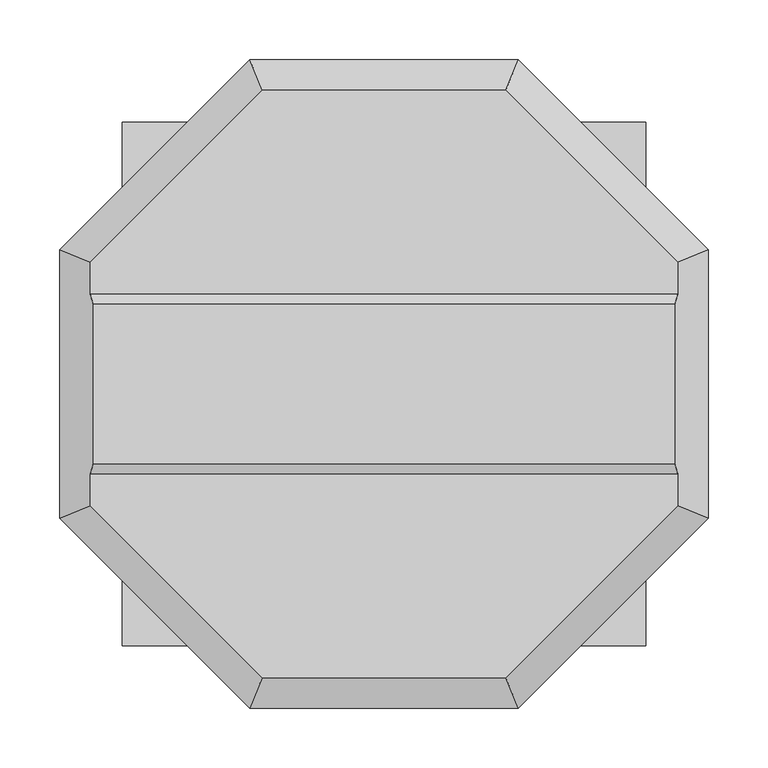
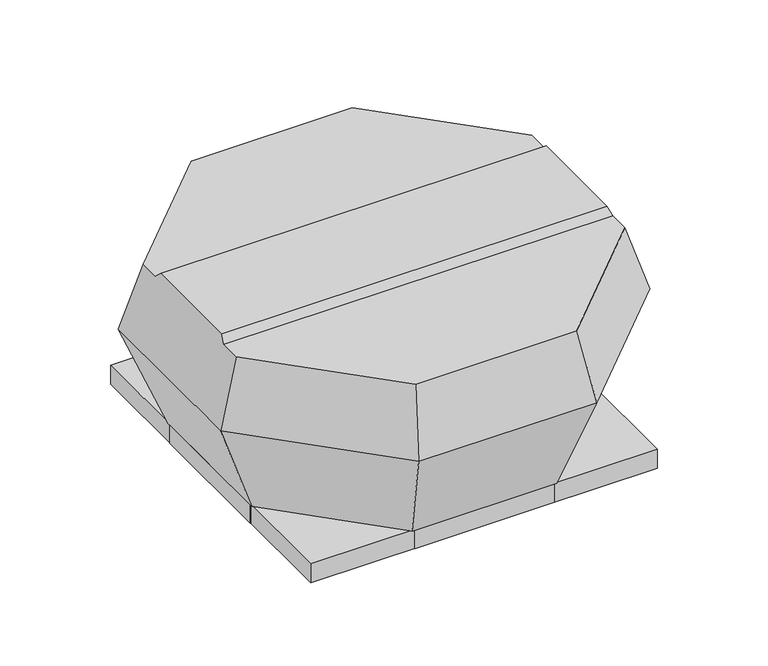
"""IFC4 building model written with IfcOpenShell, lengths in millimetres: unitary equipment geometry, VE-Wentylator-ParaForma-Harmann-VIVO-Wywiewny : 4-315/1900S."""

from ifc_helpers import new_model, si_unit, origin, place, context, project, spatial, faceted_brep, source, transform, mapped, element, save


def unitary_equipment_a15a98cf(model_context):
    return source(origin(), model_context, "Body", "Brep", [
        faceted_brep([(242.8789485, -66.5, 224.6), (242.8789485, 66.5, 224.6), (-242.8789485, 66.5, 224.6), (-242.8789485, -66.5, 224.6), (245.4048086, 74.9, 216.2), (-245.4048086, 74.9, 216.2), (245.4048086, -74.9, 216.2), (-245.4048086, -74.9, 216.2), (101.65, -245.4048086, 216.2), (245.4048086, -101.65, 216.2), (-245.4048086, -101.65, 216.2), (-101.65, -245.4048086, 216.2), (245.4048086, 101.65, 216.2), (101.65, 245.4048086, 216.2), (-101.65, 245.4048086, 216.2), (-245.4048086, 101.65, 216.2), (112.1, -270.6333403, 132.3), (270.6333403, -112.1, 132.3), (270.6333403, 112.1, 132.3), (112.1, 270.6333403, 132.3), (-112.1, 270.6333403, 132.3), (-270.6333403, 112.1, 132.3), (-270.6333403, -112.1, 132.3), (-112.1, -270.6333403, 132.3), (90.95, -219.5727235, 1.0), (-90.95, -219.5727235, 1.0), (-219.5727235, -90.95, 1.0), (-219.5727235, 90.95, 1.0), (-90.95, 219.5727235, 1.0), (90.95, 219.5727235, 1.0), (219.5727235, 90.95, 1.0), (219.5727235, -90.95, 1.0)], [[[0, 1, 2, 3]], [[1, 4, 5, 2]], [[6, 0, 3, 7]], [[8, 9, 6, 7, 10, 11]], [[12, 13, 14, 15, 5, 4]], [[9, 8, 16, 17]], [[9, 17, 18, 12, 4, 1, 0, 6]], [[13, 12, 18, 19]], [[14, 13, 19, 20]], [[15, 14, 20, 21]], [[15, 21, 22, 10, 7, 3, 2, 5]], [[11, 10, 22, 23]], [[8, 11, 23, 16]], [[24, 25, 26, 27, 28, 29, 30, 31]], [[24, 31, 17, 16]], [[31, 30, 18, 17]], [[30, 29, 19, 18]], [[29, 28, 20, 19]], [[28, 27, 21, 20]], [[27, 26, 22, 21]], [[26, 25, 23, 22]], [[25, 24, 16, 23]]]),
        faceted_brep([(217.5, 217.5, -24.0), (217.5, 217.5, 0.0), (-217.5, 217.5, 0.0), (-217.5, 217.5, -24.0), (218.5, 218.5, 1.0), (218.5, 218.5, -24.0), (-218.5, 218.5, -24.0), (-218.5, 218.5, 1.0), (-217.5, -217.5, 0.0), (-217.5, -217.5, -24.0), (-218.5, -218.5, -24.0), (-218.5, -218.5, 1.0), (217.5, -217.5, 0.0), (217.5, -217.5, -24.0), (218.5, -218.5, -24.0), (218.5, -218.5, 1.0)], [[[0, 1, 2, 3]], [[4, 5, 6, 7]], [[3, 2, 8, 9]], [[7, 6, 10, 11]], [[9, 8, 12, 13]], [[11, 10, 14, 15]], [[13, 12, 1, 0]], [[5, 14, 10, 6], [3, 9, 13, 0]], [[15, 14, 5, 4]], [[7, 11, 15, 4]], [[1, 12, 8, 2]]]),
        faceted_brep([(-218.5, -88.0, -23.5), (-219.5, -88.0, -23.5), (-219.5, 88.0, -23.5), (-218.5, 88.0, -23.5), (-218.5, -88.0, 1.5), (-218.5, 88.0, 1.5), (-219.5, 88.0, 1.5), (-219.5, -88.0, 1.5)], [[[0, 1, 2, 3]], [[4, 5, 6, 7]], [[1, 0, 4, 7]], [[2, 1, 7, 6]], [[3, 2, 6, 5]], [[0, 3, 5, 4]]]),
        faceted_brep([(219.5, -88.0, -23.5), (218.5, -88.0, -23.5), (218.5, 88.0, -23.5), (219.5, 88.0, -23.5), (219.5, 88.0, 1.5), (218.5, 88.0, 1.5), (218.5, 5.0, 1.5), (218.5, -5.0, 1.5), (218.5, -88.0, 1.5), (219.5, -88.0, 1.5), (219.5, -5.0, 1.5), (219.5, 5.0, 1.5)], [[[0, 1, 2, 3]], [[4, 5, 6, 7, 8, 9, 10, 11]], [[1, 0, 9, 8]], [[2, 1, 8, 7, 6, 5]], [[3, 2, 5, 4]], [[0, 3, 4, 11, 10, 9]]]),
        faceted_brep([(88.0, 218.5, -23.5), (-88.0, 218.5, -23.5), (-88.0, 219.5, -23.5), (88.0, 219.5, -23.5), (88.0, 218.5, 1.5), (88.0, 219.5, 1.5), (-88.0, 219.5, 1.5), (-88.0, 218.5, 1.5)], [[[0, 1, 2, 3]], [[4, 5, 6, 7]], [[1, 0, 4, 7]], [[2, 1, 7, 6]], [[3, 2, 6, 5]], [[0, 3, 5, 4]]]),
        faceted_brep([(88.0, -219.5, -23.5), (-88.0, -219.5, -23.5), (-88.0, -218.5, -23.5), (88.0, -218.5, -23.5), (88.0, -219.5, 1.5), (88.0, -218.5, 1.5), (-88.0, -218.5, 1.5), (-88.0, -219.5, 1.5)], [[[0, 1, 2, 3]], [[4, 5, 6, 7]], [[1, 0, 4, 7]], [[2, 1, 7, 6]], [[3, 2, 6, 5]], [[0, 3, 5, 4]]]),
    ])


if __name__ == "__main__":
    model = new_model("IFC4")
    model_context = context("Model", 3, world=origin())
    ifc_project = project(units=[si_unit("LENGTHUNIT", "METRE", prefix="MILLI")], contexts=[model_context])
    site = spatial("IfcSite", under=ifc_project)
    building = spatial("IfcBuilding", under=site)
    placement = place(None, origin())
    unitary_equipment_shape = unitary_equipment_a15a98cf(model_context)
    element("IfcUnitaryEquipment", 1, ObjectType="VE-Wentylator-ParaForma-Harmann-VIVO-Wywiewny : 4-315/1900S", at=placement, inside=building, context=model_context, shape_type="MappedRepresentation", body=[
        mapped(unitary_equipment_shape, transform((0.0, 0.0, 0.0), x_axis=(1.0, 0.0, 0.0), y_axis=(0.0, 1.0, 0.0), z_axis=(0.0, 0.0, 1.0))),
    ])
    save(model, "model.ifc")
